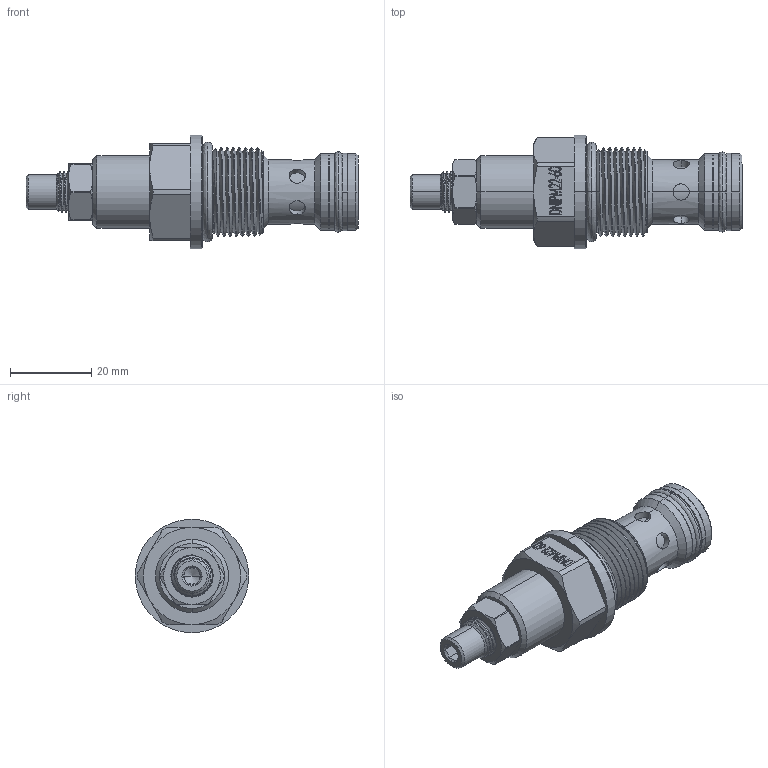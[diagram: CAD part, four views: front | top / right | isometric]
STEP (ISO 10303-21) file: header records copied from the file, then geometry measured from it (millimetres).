
FILE_DESCRIPTION (( 'STEP AP214' ), '1' );
FILE_NAME ('DNIPM22.STEP', '2017-03-14T12:30:40', ( '' ), ( '' ), 'SwSTEP 2.0', 'SolidWorks 2016', '' );
FILE_SCHEMA (( 'AUTOMOTIVE_DESIGN' ));
Length unit declared in the file: millimetre
Products named in the file (1): DNIPM22
Bounding box: 81.9 x 28 x 28 mm (x, y, z)
Volume: 22131.7 mm3; surface area: 8636.5 mm2
Topology: 3 solids, 3 shells, 310 faces, 767 edges, 492 vertices
Faces by surface type: plane 118, cylinder 86, bspline 56, cone 50
Entity records: 17157 total; most frequent: CARTESIAN_POINT 6989, ORIENTED_EDGE 1530, DIRECTION 1206, EDGE_CURVE 765, VERTEX_POINT 492, AXIS2_PLACEMENT_3D 415, VECTOR 376, LINE 376
